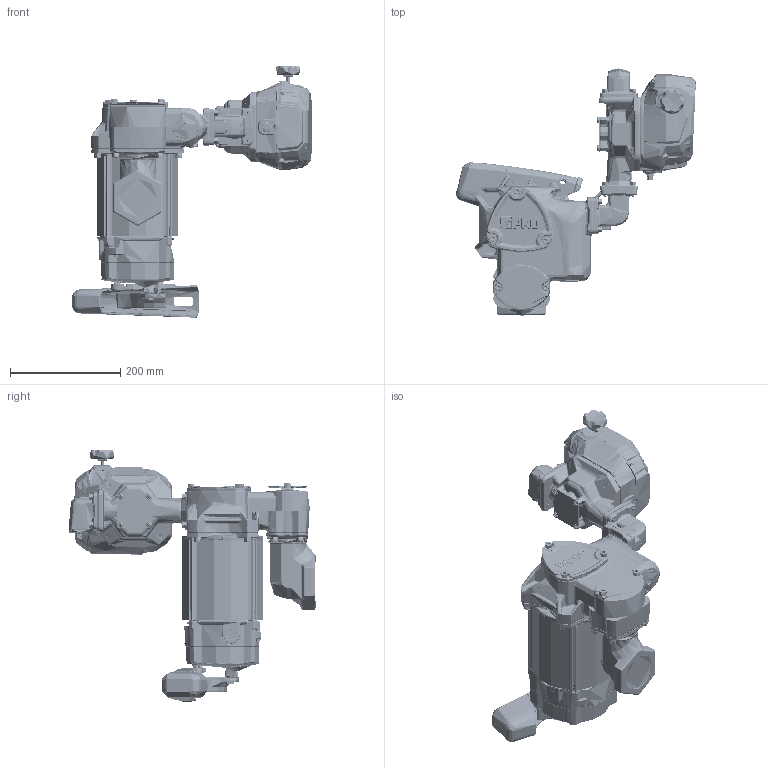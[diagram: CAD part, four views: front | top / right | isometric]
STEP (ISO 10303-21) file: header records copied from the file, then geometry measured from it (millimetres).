
FILE_DESCRIPTION(/* description */ (''),/* implementation_level */ '2;1');
FILE_NAME(/* name */ 'V35-115PO+QM40.stp',/* time_stamp */ '2025-02-10T10:48:21-06:00',/* author */ ('gdanhar'),/* organization */ (''),/* preprocessor_version */ 'ST-DEVELOPER v20',/* originating_system */ 'Autodesk Inventor 2024',/* authorisation */ '');
FILE_SCHEMA (('AUTOMOTIVE_DESIGN { 1 0 10303 214 3 1 1 }'));
Length unit declared in the file: inch
Products named in the file (8): V35_WEB_ASSY; 172100-01_WEB; 162204-11; 904009-28; QM40_WEB; 139138-01; 162205-01; 904009-03
Assembly tree (19 placements, depth 2):
  V35_WEB_ASSY
    172100-01_WEB
    162204-11
    904009-28  x2
    QM40_WEB
    139138-01
    162205-01
    904009-03  x12
Bounding box: 434.72 x 447.83 x 458.28 mm (x, y, z)
Volume: 8721419.9 mm3; surface area: 827359.4 mm2
Topology: 27 solids, 408 shells, 14758 faces, 38068 edges, 23893 vertices
Faces by surface type: bspline 6347, plane 3340, cylinder 2802, torus 937, cone 807, sphere 525
Full cylindrical faces by diameter (mm): 0.762 x1, 1.016 x6, 2.962 x14, 3.023 x1, 3.302 x4, 3.454 x2, 3.68 x1, 4 x24, 4.166 x2, 4.978 x11, 5 x12, 5.001 x20, 5.08 x5, 5.781 x1, 5.838 x1, 5.842 x6, 5.994 x14, 6 x84, 6.067 x16, 6.078 x22, 6.35 x4, 7 x4, 7.806 x4, 8 x2, 8.179 x2, 9.487 x1, 9.525 x6, 9.906 x2, 10 x20, 10.193 x1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
Entity records: 969567 total; most frequent: CARTESIAN_POINT 641077, ORIENTED_EDGE 73300, DIRECTION 52604, EDGE_CURVE 37381, VERTEX_POINT 23598, AXIS2_PLACEMENT_3D 22082, EDGE_LOOP 15117, B_SPLINE_CURVE_WITH_KNOTS 14803
